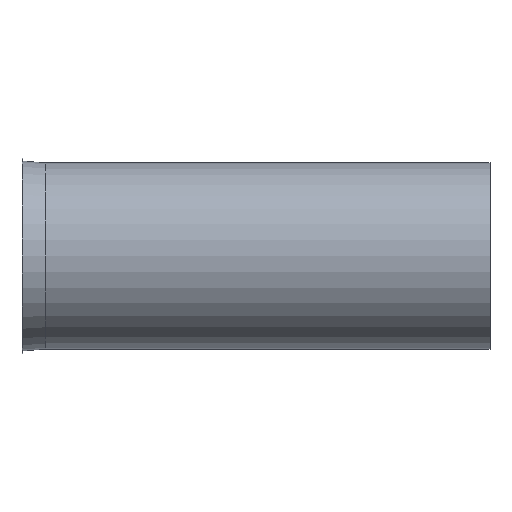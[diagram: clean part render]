
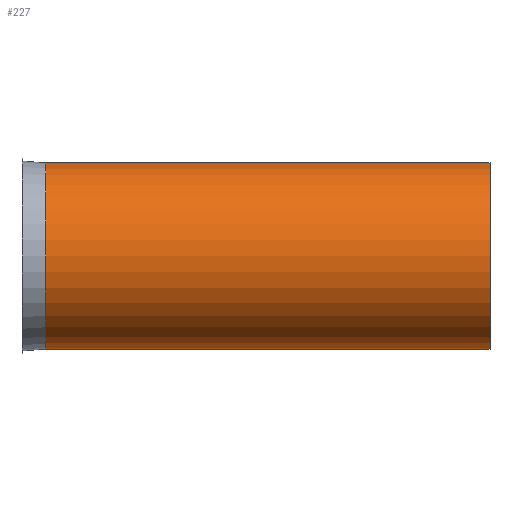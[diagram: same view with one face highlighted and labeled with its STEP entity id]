
A CAD part, front view. The second image highlights one B-rep face of the part: STEP entity #227.
In plain terms, the highlighted cylindrical face has radius 197 mm (diameter 394 mm), a full revolution.
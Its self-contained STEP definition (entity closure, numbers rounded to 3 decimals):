
#132=CARTESIAN_POINT('',(22.919,46.834,0.0));
#133=VERTEX_POINT('',#132);
#134=CARTESIAN_POINT('',(22.919,243.834,0.0));
#135=DIRECTION('',(-1.0,0.0,0.0));
#136=DIRECTION('',(0.0,-1.0,0.0));
#137=AXIS2_PLACEMENT_3D('',#134,#135,#136);
#138=CIRCLE('',#137,197.);
#139=EDGE_CURVE('',#133,#133,#138,.T.);
#201=CARTESIAN_POINT('',(963.919,46.834,0.0));
#202=VERTEX_POINT('',#201);
#203=CARTESIAN_POINT('',(963.919,243.834,0.0));
#204=DIRECTION('',(-1.0,0.0,0.0));
#205=DIRECTION('',(0.0,-1.0,0.0));
#206=AXIS2_PLACEMENT_3D('',#203,#204,#205);
#207=CIRCLE('',#206,197.);
#208=EDGE_CURVE('',#202,#202,#207,.T.);
#216=CARTESIAN_POINT('',(493.419,243.834,0.0));
#217=DIRECTION('',(-1.0,0.,0.0));
#218=DIRECTION('',(0.0,-1.0,0.0));
#219=AXIS2_PLACEMENT_3D('',#216,#217,#218);
#220=CYLINDRICAL_SURFACE('',#219,197.);
#221=ORIENTED_EDGE('',*,*,#139,.F.);
#222=EDGE_LOOP('',(#221));
#223=FACE_OUTER_BOUND('',#222,.T.);
#224=ORIENTED_EDGE('',*,*,#208,.T.);
#225=EDGE_LOOP('',(#224));
#226=FACE_BOUND('',#225,.T.);
#227=ADVANCED_FACE('',(#223,#226),#220,.T.);
